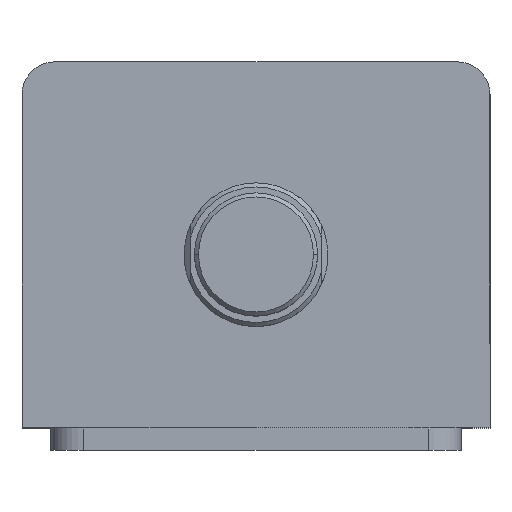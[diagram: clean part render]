
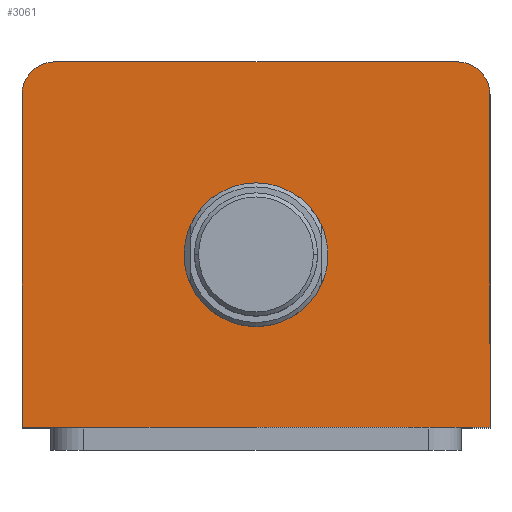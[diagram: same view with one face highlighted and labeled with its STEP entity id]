
A CAD part, top view. The second image highlights one B-rep face of the part: STEP entity #3061.
In plain terms, the highlighted planar face has unit normal (0, 0, 1).
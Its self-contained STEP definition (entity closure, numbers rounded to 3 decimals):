
#75 = CIRCLE ( 'NONE', #2715, 17.5 ) ;
#154 = EDGE_CURVE ( 'NONE', #1600, #183, #564, .T. ) ;
#160 = VERTEX_POINT ( 'NONE', #761 ) ;
#179 = VERTEX_POINT ( 'NONE', #703 ) ;
#183 = VERTEX_POINT ( 'NONE', #683 ) ;
#563 = VECTOR ( 'NONE', #809, 1000. ) ;
#564 = LINE ( 'NONE', #832, #563 ) ;
#577 = EDGE_CURVE ( 'NONE', #1582, #1583, #75, .T. ) ;
#683 = CARTESIAN_POINT ( 'NONE',  ( -49., 44.5, 157. ) ) ;
#703 = CARTESIAN_POINT ( 'NONE',  ( -57., 36.5, 157. ) ) ;
#761 = CARTESIAN_POINT ( 'NONE',  ( 57., 36.5, 157. ) ) ;
#801 = DIRECTION ( 'NONE',  ( 1., 0., 0. ) ) ;
#802 = DIRECTION ( 'NONE',  ( 0., 0., 1. ) ) ;
#803 = CARTESIAN_POINT ( 'NONE',  ( 0., -2.5, 157. ) ) ;
#809 = DIRECTION ( 'NONE',  ( -1., 0., 0. ) ) ;
#832 = CARTESIAN_POINT ( 'NONE',  ( -57., 44.5, 157. ) ) ;
#1318 = ORIENTED_EDGE ( 'NONE', *, *, #2472, .F. ) ;
#1319 = ORIENTED_EDGE ( 'NONE', *, *, #577, .F. ) ;
#1320 = ORIENTED_EDGE ( 'NONE', *, *, #154, .T. ) ;
#1321 = ORIENTED_EDGE ( 'NONE', *, *, #2468, .T. ) ;
#1322 = ORIENTED_EDGE ( 'NONE', *, *, #3631, .T. ) ;
#1323 = ORIENTED_EDGE ( 'NONE', *, *, #2478, .T. ) ;
#1324 = ORIENTED_EDGE ( 'NONE', *, *, #2451, .T. ) ;
#1325 = ORIENTED_EDGE ( 'NONE', *, *, #2459, .T. ) ;
#1581 = VERTEX_POINT ( 'NONE', #2353 ) ;
#1582 = VERTEX_POINT ( 'NONE', #2352 ) ;
#1583 = VERTEX_POINT ( 'NONE', #2359 ) ;
#1585 = VERTEX_POINT ( 'NONE', #2342 ) ;
#1600 = VERTEX_POINT ( 'NONE', #2311 ) ;
#1661 = LINE ( 'NONE', #2339, #1664 ) ;
#1664 = VECTOR ( 'NONE', #2337, 1000. ) ;
#1668 = CIRCLE ( 'NONE', #2765, 8. ) ;
#1681 = CIRCLE ( 'NONE', #2773, 8. ) ;
#1687 = CIRCLE ( 'NONE', #2777, 17.5 ) ;
#1695 = LINE ( 'NONE', #2224, #1698 ) ;
#1698 = VECTOR ( 'NONE', #2221, 1000. ) ;
#1908 = FACE_BOUND ( 'NONE', #3099, .T. ) ;
#1916 = FACE_OUTER_BOUND ( 'NONE', #3096, .T. ) ;
#1927 = LINE ( 'NONE', #3412, #1930 ) ;
#1930 = VECTOR ( 'NONE', #3410, 1000. ) ;
#2221 = DIRECTION ( 'NONE',  ( 1., 0., 0. ) ) ;
#2224 = CARTESIAN_POINT ( 'NONE',  ( -57., -44.5, 157. ) ) ;
#2237 = DIRECTION ( 'NONE',  ( 1., 0., 0. ) ) ;
#2238 = DIRECTION ( 'NONE',  ( 0., 0., 1. ) ) ;
#2239 = CARTESIAN_POINT ( 'NONE',  ( 0., -2.5, 157. ) ) ;
#2249 = DIRECTION ( 'NONE',  ( 1., 0., 0. ) ) ;
#2250 = DIRECTION ( 'NONE',  ( 0., 0., 1. ) ) ;
#2251 = CARTESIAN_POINT ( 'NONE',  ( -49., 36.5, 157. ) ) ;
#2285 = DIRECTION ( 'NONE',  ( 1., 0., 0. ) ) ;
#2288 = DIRECTION ( 'NONE',  ( 0., 0., 1. ) ) ;
#2290 = CARTESIAN_POINT ( 'NONE',  ( 49., 36.5, 157. ) ) ;
#2311 = CARTESIAN_POINT ( 'NONE',  ( 49., 44.5, 157. ) ) ;
#2337 = DIRECTION ( 'NONE',  ( 0., 1., 0. ) ) ;
#2339 = CARTESIAN_POINT ( 'NONE',  ( 57., 44.5, 157. ) ) ;
#2342 = CARTESIAN_POINT ( 'NONE',  ( 57., -44.5, 157. ) ) ;
#2352 = CARTESIAN_POINT ( 'NONE',  ( -17.5, -2.5, 157. ) ) ;
#2353 = CARTESIAN_POINT ( 'NONE',  ( -57., -44.5, 157. ) ) ;
#2359 = CARTESIAN_POINT ( 'NONE',  ( 17.5, -2.5, 157. ) ) ;
#2451 = EDGE_CURVE ( 'NONE', #1585, #160, #1661, .T. ) ;
#2459 = EDGE_CURVE ( 'NONE', #160, #1600, #1668, .T. ) ;
#2468 = EDGE_CURVE ( 'NONE', #183, #179, #1681, .T. ) ;
#2472 = EDGE_CURVE ( 'NONE', #1583, #1582, #1687, .T. ) ;
#2478 = EDGE_CURVE ( 'NONE', #1581, #1585, #1695, .T. ) ;
#2715 = AXIS2_PLACEMENT_3D ( 'NONE', #803, #802, #801 ) ;
#2765 = AXIS2_PLACEMENT_3D ( 'NONE', #2290, #2288, #2285 ) ;
#2773 = AXIS2_PLACEMENT_3D ( 'NONE', #2251, #2250, #2249 ) ;
#2777 = AXIS2_PLACEMENT_3D ( 'NONE', #2239, #2238, #2237 ) ;
#2870 = AXIS2_PLACEMENT_3D ( 'NONE', #3453, #3440, #3438 ) ;
#3061 = ADVANCED_FACE ( 'NONE', ( #1908, #1916 ), #3447, .T. ) ;
#3096 = EDGE_LOOP ( 'NONE', ( #1320, #1321, #1322, #1323, #1324, #1325 ) ) ;
#3099 = EDGE_LOOP ( 'NONE', ( #1318, #1319 ) ) ;
#3410 = DIRECTION ( 'NONE',  ( 0., -1., 0. ) ) ;
#3412 = CARTESIAN_POINT ( 'NONE',  ( -57., 44.5, 157. ) ) ;
#3438 = DIRECTION ( 'NONE',  ( 1., 0., 0. ) ) ;
#3440 = DIRECTION ( 'NONE',  ( 0., 0., 1. ) ) ;
#3447 = PLANE ( 'NONE',  #2870 ) ;
#3453 = CARTESIAN_POINT ( 'NONE',  ( 0., 0., 157. ) ) ;
#3631 = EDGE_CURVE ( 'NONE', #179, #1581, #1927, .T. ) ;
